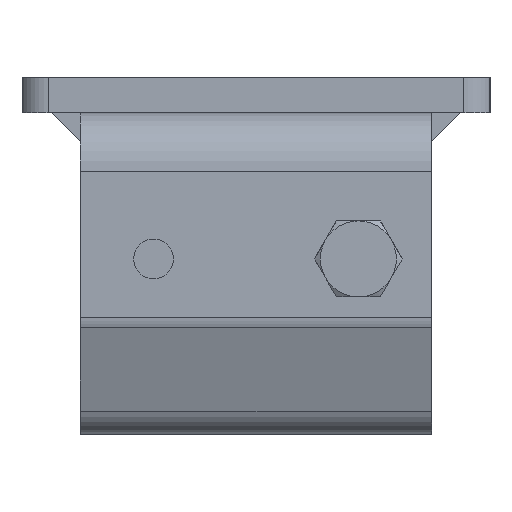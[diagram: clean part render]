
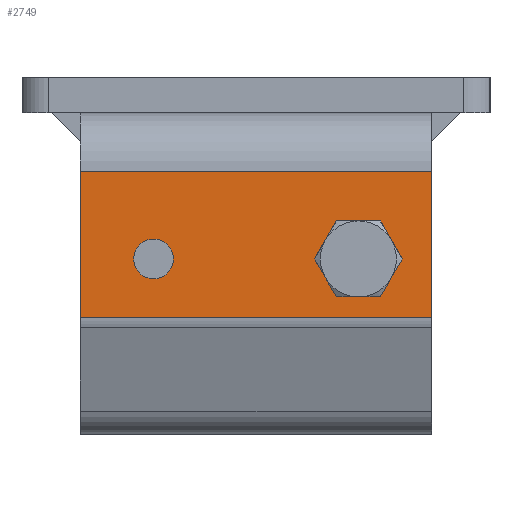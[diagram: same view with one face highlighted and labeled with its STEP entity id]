
A CAD part, left-side view. The second image highlights one B-rep face of the part: STEP entity #2749.
In plain terms, the highlighted planar face has unit normal (-1, 0, 0).
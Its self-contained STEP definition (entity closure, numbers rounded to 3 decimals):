
#93=FACE_BOUND('',#710,.T.);
#94=FACE_BOUND('',#711,.T.);
#285=CIRCLE('',#3011,3.4);
#287=CIRCLE('',#3014,3.324);
#488=FACE_OUTER_BOUND('',#709,.T.);
#709=EDGE_LOOP('',(#2315,#2316,#2317,#2318));
#710=EDGE_LOOP('',(#2319));
#711=EDGE_LOOP('',(#2320));
#893=LINE('',#4855,#1097);
#921=LINE('',#4946,#1125);
#924=LINE('',#4953,#1128);
#928=LINE('',#4966,#1132);
#1097=VECTOR('',#3580,60.);
#1125=VECTOR('',#3680,25.);
#1128=VECTOR('',#3687,60.);
#1132=VECTOR('',#3707,25.);
#1329=VERTEX_POINT('',#4840);
#1332=VERTEX_POINT('',#4848);
#1356=VERTEX_POINT('',#4937);
#1358=VERTEX_POINT('',#4942);
#1359=VERTEX_POINT('',#4945);
#1361=VERTEX_POINT('',#4952);
#1636=EDGE_CURVE('',#1332,#1329,#893,.T.);
#1675=EDGE_CURVE('',#1356,#1356,#285,.T.);
#1677=EDGE_CURVE('',#1358,#1358,#287,.T.);
#1678=EDGE_CURVE('',#1359,#1332,#921,.T.);
#1682=EDGE_CURVE('',#1361,#1359,#924,.T.);
#1689=EDGE_CURVE('',#1329,#1361,#928,.T.);
#2315=ORIENTED_EDGE('',*,*,#1636,.T.);
#2316=ORIENTED_EDGE('',*,*,#1689,.T.);
#2317=ORIENTED_EDGE('',*,*,#1682,.T.);
#2318=ORIENTED_EDGE('',*,*,#1678,.T.);
#2319=ORIENTED_EDGE('',*,*,#1677,.T.);
#2320=ORIENTED_EDGE('',*,*,#1675,.T.);
#2589=PLANE('',#3026);
#2749=ADVANCED_FACE('',(#488,#93,#94),#2589,.T.);
#3011=AXIS2_PLACEMENT_3D('',#4938,#3670,#3671);
#3014=AXIS2_PLACEMENT_3D('',#4943,#3676,#3677);
#3026=AXIS2_PLACEMENT_3D('',#4967,#3708,#3709);
#3580=DIRECTION('',(0.,1.,0.));
#3670=DIRECTION('center_axis',(1.,0.,0.));
#3671=DIRECTION('ref_axis',(0.,0.,
-1.));
#3676=DIRECTION('center_axis',(1.,0.,0.));
#3677=DIRECTION('ref_axis',(0.,0.,
1.));
#3680=DIRECTION('',(0.,0.,1.));
#3687=DIRECTION('',(0.,-1.,0.));
#3707=DIRECTION('',(0.,0.,-1.));
#3708=DIRECTION('center_axis',(-1.,0.,0.));
#3709=DIRECTION('ref_axis',(0.,0.,1.));
#4840=CARTESIAN_POINT('',(-30.,30.,-10.));
#4848=CARTESIAN_POINT('',(-30.,-30.,-10.));
#4855=CARTESIAN_POINT('',(-30.,15.,-10.));
#4937=CARTESIAN_POINT('',(-30.,17.5,-21.6));
#4938=CARTESIAN_POINT('Origin',(-30.,17.5,-25.));
#4942=CARTESIAN_POINT('',(-30.,-17.5,-21.676));
#4943=CARTESIAN_POINT('Origin',(-30.,-17.5,-25.));
#4945=CARTESIAN_POINT('',(-30.,-30.,-35.));
#4946=CARTESIAN_POINT('',(-30.,-30.,-59.679));
#4952=CARTESIAN_POINT('',(-30.,30.,-35.));
#4953=CARTESIAN_POINT('',(-30.,-15.,-35.));
#4966=CARTESIAN_POINT('',(-30.,30.,103.68));
#4967=CARTESIAN_POINT('Origin',(-30.,0.,87.));
